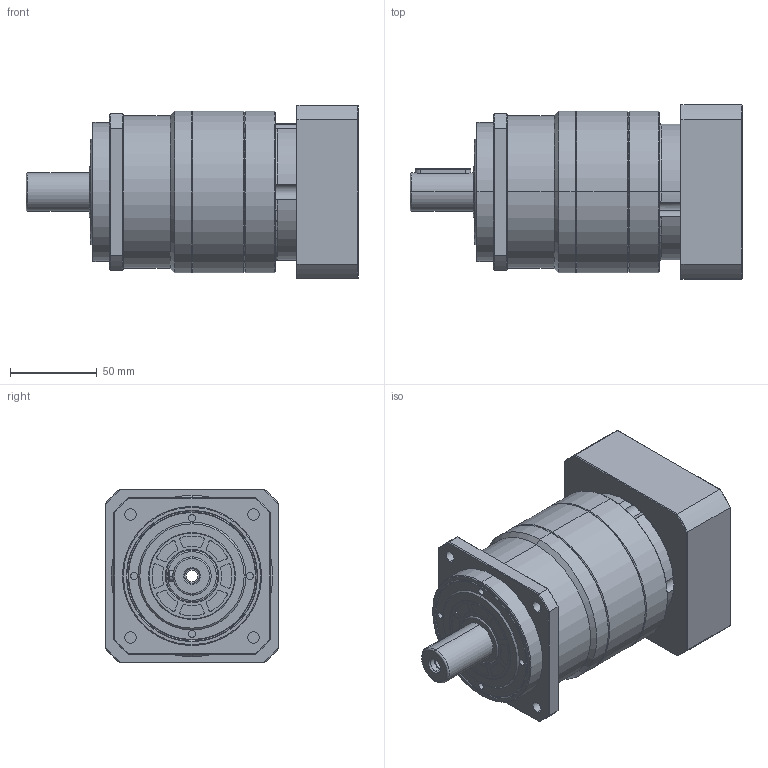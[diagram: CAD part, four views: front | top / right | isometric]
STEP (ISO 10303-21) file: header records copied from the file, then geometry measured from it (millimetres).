
FILE_DESCRIPTION (( 'STEP AP203' ), '1' );
FILE_NAME ('AKS90-10X5-95-24-55-M8-115.STEP', '2020-08-12T02:19:22', ( '微软用户' ), ( '微软中国' ), 'SwSTEP 2.0', 'SolidWorks 2008', '' );
FILE_SCHEMA (( 'CONFIG_CONTROL_DESIGN' ));
Length unit declared in the file: millimetre
Products named in the file (1): AKS90-10X5-95-24-55-M8-115
Bounding box: 191 x 100 x 100 mm (x, y, z)
Surface area: 111965.5 mm2 (no closed solid volume)
Topology: 0 solids, 30 shells, 417 faces, 1308 edges, 893 vertices
Faces by surface type: plane 160, cylinder 151, cone 71, torus 35
Entity records: 15041 total; most frequent: CARTESIAN_POINT 3178, DIRECTION 2658, ORIENTED_EDGE 2117, EDGE_CURVE 1300, AXIS2_PLACEMENT_3D 1035, VERTEX_POINT 893, CIRCLE 617, VECTOR 588
